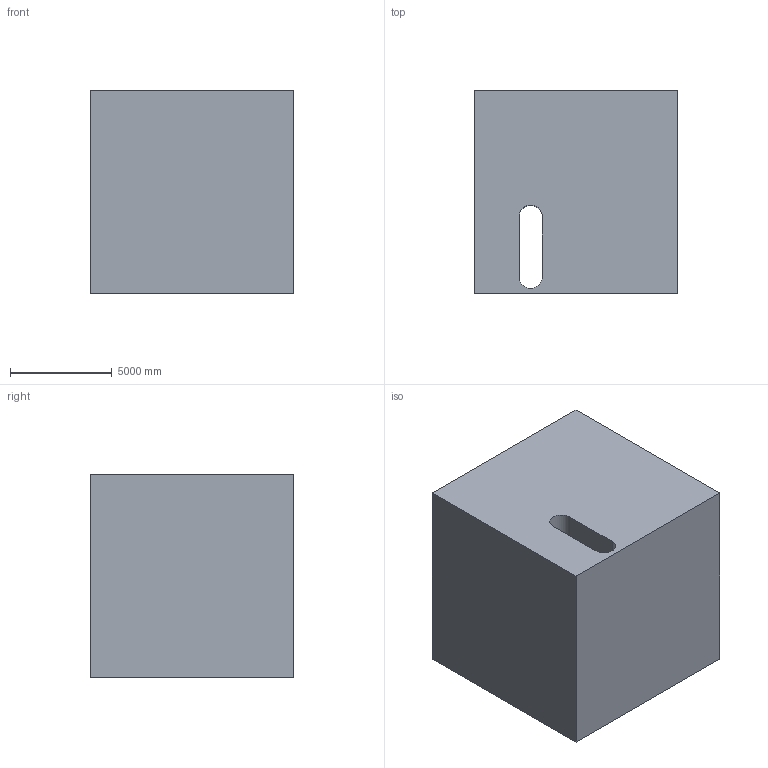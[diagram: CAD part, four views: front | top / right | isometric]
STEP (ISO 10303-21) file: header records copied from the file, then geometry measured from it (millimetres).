
FILE_DESCRIPTION (( 'STEP AP203' ), '1' );
FILE_NAME ('113.STEP', '2022-09-06T15:06:55', ( 'user' ), ( '' ), 'SwSTEP 2.0', 'SolidWorks 2021', '' );
FILE_SCHEMA (( 'CONFIG_CONTROL_DESIGN' ));
Length unit declared in the file: centimetre
Products named in the file (1): 113
Bounding box: 10000 x 10000 x 10000 mm (x, y, z)
Volume: 949366100147.4 mm3; surface area: 687973078.6 mm2
Topology: 1 solids, 1 shells, 14 faces, 36 edges, 24 vertices
Faces by surface type: plane 10, cylinder 4
Entity records: 509 total; most frequent: CARTESIAN_POINT 75, DIRECTION 74, ORIENTED_EDGE 72, EDGE_CURVE 36, LINE 28, VECTOR 28, VERTEX_POINT 24, AXIS2_PLACEMENT_3D 23
